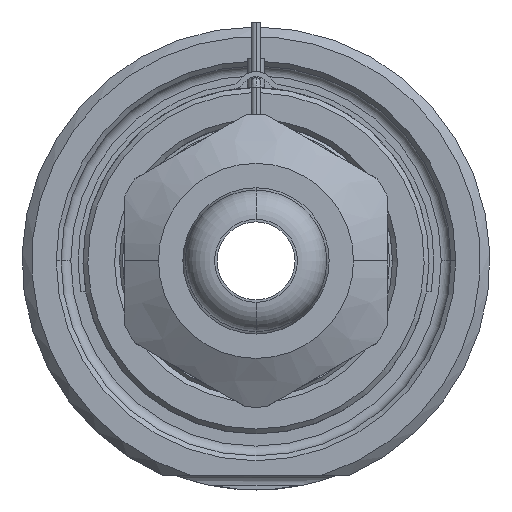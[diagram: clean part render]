
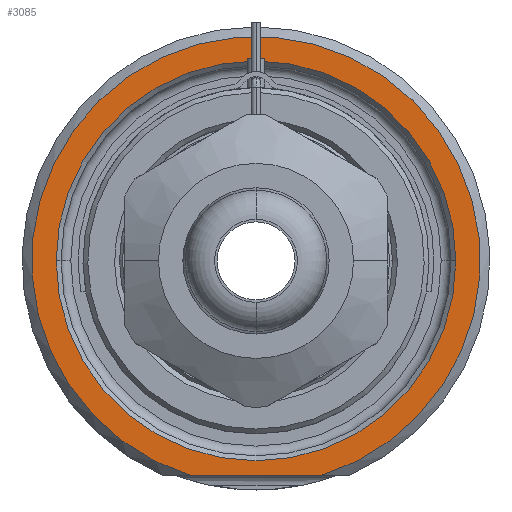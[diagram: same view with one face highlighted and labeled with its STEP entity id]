
A CAD part, front view. The second image highlights one B-rep face of the part: STEP entity #3085.
In plain terms, the highlighted planar face has unit normal (0, -1, 0).
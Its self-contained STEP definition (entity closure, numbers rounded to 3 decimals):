
#1=DIRECTION('',(1.,0.,0.));
#2=VECTOR('',#1,13.416);
#3=CARTESIAN_POINT('',(-6.708,0.,-22.));
#4=LINE('',#3,#2);
#5=CARTESIAN_POINT('',(0.,0.,0.));
#6=DIRECTION('',(0.,1.,0.));
#7=DIRECTION('',(-1.,0.,0.));
#8=AXIS2_PLACEMENT_3D('',#5,#6,#7);
#10=CARTESIAN_POINT('',(0.,0.,0.));
#11=DIRECTION('',(0.,1.,0.));
#12=DIRECTION('',(1.,0.,0.));
#13=AXIS2_PLACEMENT_3D('',#10,#11,#12);
#121=CARTESIAN_POINT('',(0.,0.,0.));
#122=DIRECTION('',(0.,-1.,0.));
#123=DIRECTION('',(0.292,0.,-0.957));
#124=AXIS2_PLACEMENT_3D('',#121,#122,#123);
#2556=CARTESIAN_POINT('',(-20.5,0.,0.));
#2557=CARTESIAN_POINT('',(20.5,0.,0.));
#2558=VERTEX_POINT('',#2556);
#2559=VERTEX_POINT('',#2557);
#2596=CARTESIAN_POINT('',(-6.708,0.,-22.));
#2597=CARTESIAN_POINT('',(6.708,0.,-22.));
#2598=VERTEX_POINT('',#2596);
#2599=VERTEX_POINT('',#2597);
#3068=CARTESIAN_POINT('',(0.,0.,0.));
#3069=DIRECTION('',(0.,-1.,0.));
#3070=DIRECTION('',(1.,0.,0.));
#3071=AXIS2_PLACEMENT_3D('',#3068,#3069,#3070);
#3072=PLANE('',#3071);
#3074=ORIENTED_EDGE('',*,*,#3073,.F.);
#3076=ORIENTED_EDGE('',*,*,#3075,.F.);
#3077=EDGE_LOOP('',(#3074,#3076));
#3078=FACE_OUTER_BOUND('',#3077,.F.);
#3080=ORIENTED_EDGE('',*,*,#3079,.F.);
#3082=ORIENTED_EDGE('',*,*,#3081,.F.);
#3083=EDGE_LOOP('',(#3080,#3082));
#3084=FACE_BOUND('',#3083,.F.);
#3085=ADVANCED_FACE('',(#3078,#3084),#3072,.T.);
#9=CIRCLE('',#8,20.5);
#14=CIRCLE('',#13,20.5);
#125=CIRCLE('',#124,23.);
#3073=EDGE_CURVE('',#2598,#2599,#4,.T.);
#3075=EDGE_CURVE('',#2599,#2598,#125,.T.);
#3079=EDGE_CURVE('',#2558,#2559,#9,.T.);
#3081=EDGE_CURVE('',#2559,#2558,#14,.T.);
